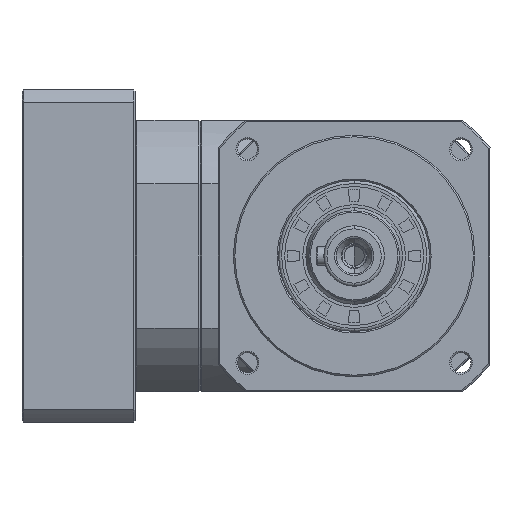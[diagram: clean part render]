
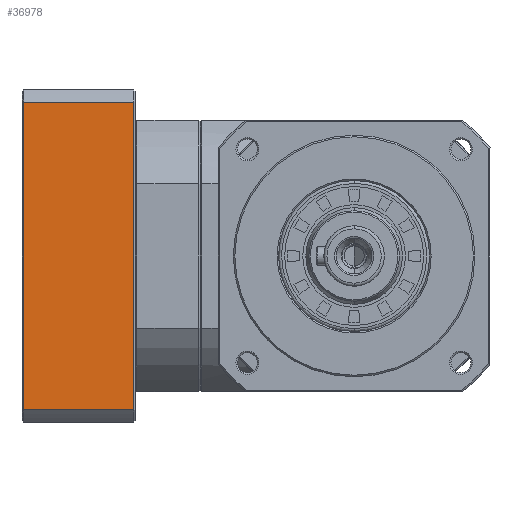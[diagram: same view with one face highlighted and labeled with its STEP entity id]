
A CAD part, left-side view. The second image highlights one B-rep face of the part: STEP entity #36978.
In plain terms, the highlighted planar face has unit normal (-1, 0, 0).
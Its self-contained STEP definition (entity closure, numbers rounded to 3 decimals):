
#4105 = ORIENTED_EDGE ( 'NONE', *, *, #26126, .T. ) ;
#6307 = AXIS2_PLACEMENT_3D ( 'NONE', #70781, #26021, #34024 ) ;
#8040 = EDGE_LOOP ( 'NONE', ( #18130, #27265, #93909, #4105 ) ) ;
#14968 = VERTEX_POINT ( 'NONE', #23167 ) ;
#15541 = LINE ( 'NONE', #70771, #90920 ) ;
#18130 = ORIENTED_EDGE ( 'NONE', *, *, #34249, .F. ) ;
#23167 = CARTESIAN_POINT ( 'NONE',  ( 104., 73., 50.99 ) ) ;
#23868 = VERTEX_POINT ( 'NONE', #27501 ) ;
#26021 = DIRECTION ( 'NONE',  ( -1., 0., 0. ) ) ;
#26126 = EDGE_CURVE ( 'NONE', #23868, #30112, #15541, .T. ) ;
#27265 = ORIENTED_EDGE ( 'NONE', *, *, #33031, .F. ) ;
#27501 = CARTESIAN_POINT ( 'NONE',  ( 104., 109.5, 50.99 ) ) ;
#27700 = VECTOR ( 'NONE', #67956, 1000. ) ;
#30112 = VERTEX_POINT ( 'NONE', #74050 ) ;
#33031 = EDGE_CURVE ( 'NONE', #14968, #34880, #81308, .T. ) ;
#33572 = CARTESIAN_POINT ( 'NONE',  ( 104., 73., -50.99 ) ) ;
#34024 = DIRECTION ( 'NONE',  ( 0., 0., 1. ) ) ;
#34249 = EDGE_CURVE ( 'NONE', #34880, #30112, #58640, .T. ) ;
#34880 = VERTEX_POINT ( 'NONE', #33572 ) ;
#35359 = CARTESIAN_POINT ( 'NONE',  ( 104., 73., 0. ) ) ;
#36978 = ADVANCED_FACE ( 'NONE', ( #44505 ), #62460, .T. ) ;
#41221 = VECTOR ( 'NONE', #85759, 1000. ) ;
#44505 = FACE_OUTER_BOUND ( 'NONE', #8040, .T. ) ;
#53522 = CARTESIAN_POINT ( 'NONE',  ( 104., 91.25, -50.99 ) ) ;
#53903 = VECTOR ( 'NONE', #94101, 1000. ) ;
#58640 = LINE ( 'NONE', #53522, #27700 ) ;
#62460 = PLANE ( 'NONE',  #6307 ) ;
#67956 = DIRECTION ( 'NONE',  ( 0., 1., 0. ) ) ;
#69988 = EDGE_CURVE ( 'NONE', #23868, #14968, #72163, .T. ) ;
#70771 = CARTESIAN_POINT ( 'NONE',  ( 104., 109.5, 0. ) ) ;
#70781 = CARTESIAN_POINT ( 'NONE',  ( 104., 73., -50.99 ) ) ;
#72163 = LINE ( 'NONE', #78421, #41221 ) ;
#74050 = CARTESIAN_POINT ( 'NONE',  ( 104., 109.5, -50.99 ) ) ;
#78421 = CARTESIAN_POINT ( 'NONE',  ( 104., 91.25, 50.99 ) ) ;
#81308 = LINE ( 'NONE', #35359, #53903 ) ;
#85729 = DIRECTION ( 'NONE',  ( 0., 0., -1. ) ) ;
#85759 = DIRECTION ( 'NONE',  ( 0., -1., 0. ) ) ;
#90920 = VECTOR ( 'NONE', #85729, 1000. ) ;
#93909 = ORIENTED_EDGE ( 'NONE', *, *, #69988, .F. ) ;
#94101 = DIRECTION ( 'NONE',  ( 0., 0., -1. ) ) ;
